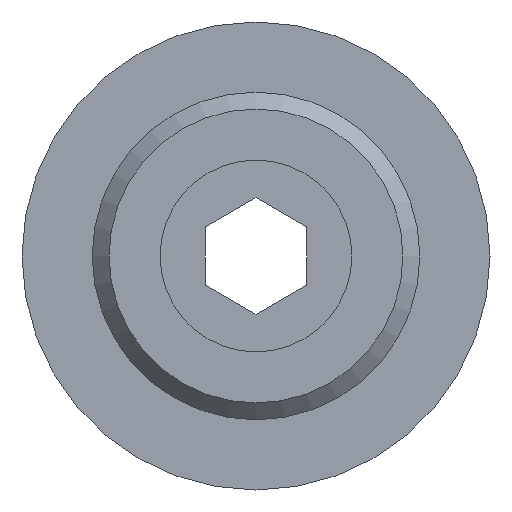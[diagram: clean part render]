
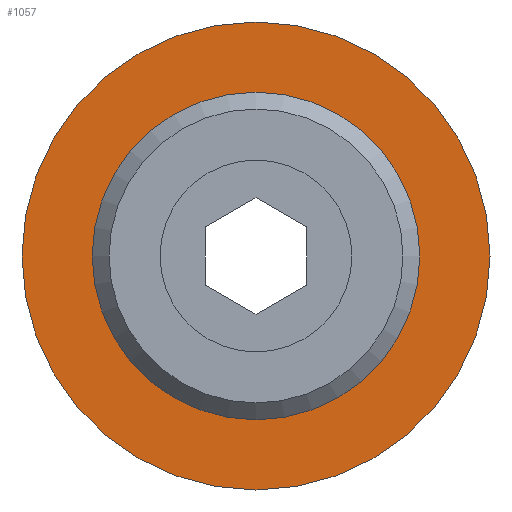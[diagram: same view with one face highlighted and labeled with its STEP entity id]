
A CAD part, front view. The second image highlights one B-rep face of the part: STEP entity #1057.
In plain terms, the highlighted planar face has unit normal (0, -1, 0).
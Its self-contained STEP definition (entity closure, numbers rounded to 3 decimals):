
#377=CARTESIAN_POINT('',(4.865,-14.,0.0));
#378=VERTEX_POINT('',#377);
#379=CARTESIAN_POINT('',(0.0,-14.,0.0));
#380=DIRECTION('',(0.0,-1.0,0.0));
#381=DIRECTION('',(1.0,0.0,0.0));
#382=AXIS2_PLACEMENT_3D('',#379,#380,#381);
#383=CIRCLE('',#382,4.865);
#384=EDGE_CURVE('',#378,#378,#383,.T.);
#1034=CARTESIAN_POINT('',(6.95,-14.,0.0));
#1035=VERTEX_POINT('',#1034);
#1036=CARTESIAN_POINT('',(0.0,-14.,0.0));
#1037=DIRECTION('',(0.0,-1.0,0.0));
#1038=DIRECTION('',(1.0,0.0,0.0));
#1039=AXIS2_PLACEMENT_3D('',#1036,#1037,#1038);
#1040=CIRCLE('',#1039,6.95);
#1041=EDGE_CURVE('',#1035,#1035,#1040,.T.);
#1046=CARTESIAN_POINT('',(5.908,-14.,0.0));
#1047=DIRECTION('',(0.0,-1.0,0.0));
#1048=DIRECTION('',(0.0,0.0,-1.0));
#1049=AXIS2_PLACEMENT_3D('',#1046,#1047,#1048);
#1050=PLANE('',#1049);
#1051=ORIENTED_EDGE('',*,*,#1041,.T.);
#1052=EDGE_LOOP('',(#1051));
#1053=FACE_OUTER_BOUND('',#1052,.T.);
#1054=ORIENTED_EDGE('',*,*,#384,.F.);
#1055=EDGE_LOOP('',(#1054));
#1056=FACE_BOUND('',#1055,.T.);
#1057=ADVANCED_FACE('',(#1053,#1056),#1050,.T.);
